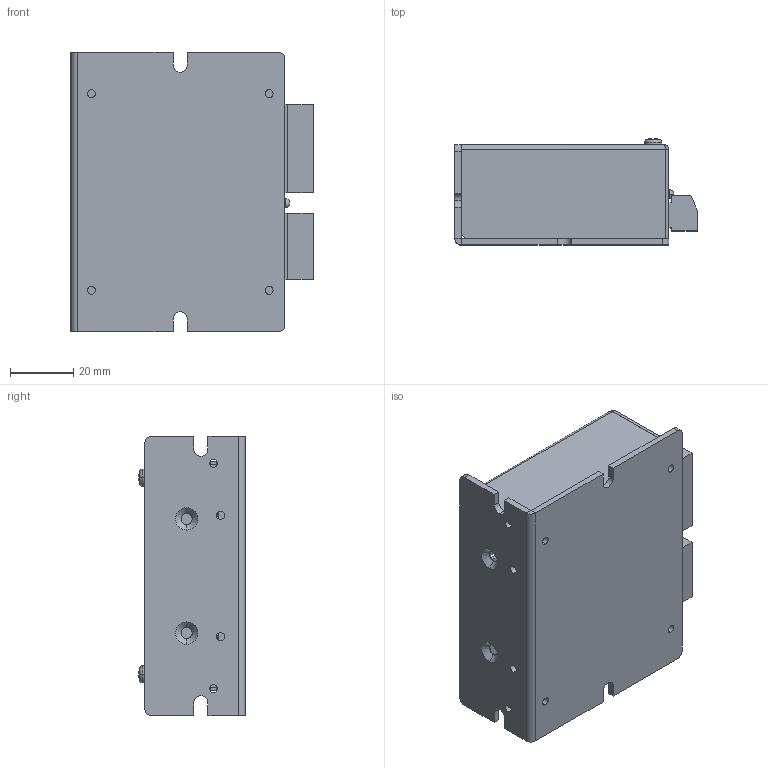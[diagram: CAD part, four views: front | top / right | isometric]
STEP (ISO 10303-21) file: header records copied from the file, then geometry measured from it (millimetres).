
FILE_DESCRIPTION (( 'STEP AP214' ), '1' );
FILE_NAME ('EXD2020B-12K8.STEP', '2016-09-05T05:56:47', ( 'hoho' ), ( '' ), 'SwSTEP 2.0', 'SolidWorks 2013', '' );
FILE_SCHEMA (( 'AUTOMOTIVE_DESIGN' ));
Length unit declared in the file: millimetre
Products named in the file (10): EXD2020B-12K8; PC-A03-5; LED-201; NKJ3-6_NKJ3-6; PC-A01-16; PC-A03-3; TERMINAL-6P(公); TERMINAL-8P(公); EXD2020B12K8-04; EXD2020B12K8-01
Assembly tree (11 placements, depth 2):
  EXD2020B-12K8
    EXD2020B12K8-01
    EXD2020B12K8-04
    TERMINAL-8P(公)
    TERMINAL-6P(公)
    PC-A03-3
    PC-A01-16  x2
    NKJ3-6_NKJ3-6  x2
    LED-201
    PC-A03-5
Bounding box: 76.4 x 33.56 x 88 mm (x, y, z)
Volume: 36359.7 mm3; surface area: 45854.7 mm2
Topology: 19 solids, 19 shells, 1388 faces, 3580 edges, 2364 vertices
Faces by surface type: plane 858, bspline 368, cylinder 106, cone 40, torus 12, sphere 4
Entity records: 42194 total; most frequent: CARTESIAN_POINT 14083, ORIENTED_EDGE 5058, DIRECTION 4079, EDGE_CURVE 2529, LINE 1871, VECTOR 1871, VERTEX_POINT 1668, EDGE_LOOP 1159
